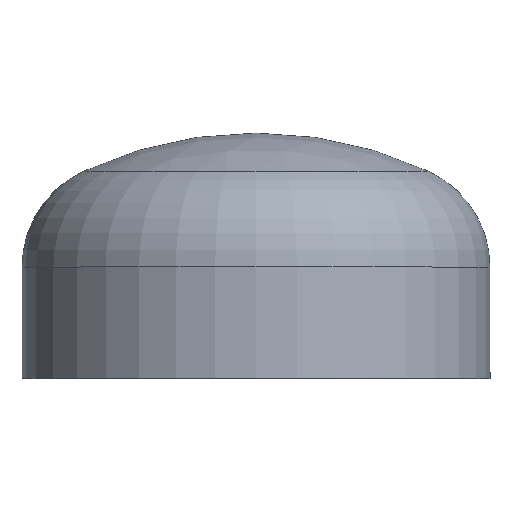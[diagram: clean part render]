
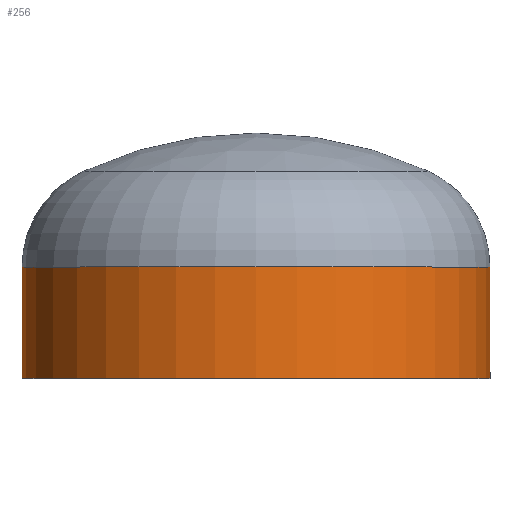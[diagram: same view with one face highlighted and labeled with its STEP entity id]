
A CAD part, top view. The second image highlights one B-rep face of the part: STEP entity #256.
In plain terms, the highlighted cylindrical face has radius 84.15 mm (diameter 168.3 mm), a partial arc.
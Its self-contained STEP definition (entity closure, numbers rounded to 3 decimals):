
#7 = DIRECTION ( 'NONE',  ( 0., -1., 0. ) ) ;
#8 = EDGE_LOOP ( 'NONE', ( #179, #226, #217, #149 ) ) ;
#17 = VERTEX_POINT ( 'NONE', #116 ) ;
#36 = VERTEX_POINT ( 'NONE', #69 ) ;
#55 = DIRECTION ( 'NONE',  ( 1., 0., 0. ) ) ;
#60 = CARTESIAN_POINT ( 'NONE',  ( 0., 0., 0. ) ) ;
#63 = EDGE_CURVE ( 'NONE', #312, #17, #165, .T. ) ;
#67 = CARTESIAN_POINT ( 'NONE',  ( 84.15, 40., 0. ) ) ;
#69 = CARTESIAN_POINT ( 'NONE',  ( -84.15, 40., 0. ) ) ;
#103 = EDGE_CURVE ( 'NONE', #401, #36, #242, .T. ) ;
#111 = CARTESIAN_POINT ( 'NONE',  ( 84.15, 0., 0. ) ) ;
#115 = VECTOR ( 'NONE', #274, 1000. ) ;
#116 = CARTESIAN_POINT ( 'NONE',  ( -84.15, 0., 0. ) ) ;
#120 = AXIS2_PLACEMENT_3D ( 'NONE', #60, #7, #55 ) ;
#126 = DIRECTION ( 'NONE',  ( 1., 0., 0. ) ) ;
#149 = ORIENTED_EDGE ( 'NONE', *, *, #301, .F. ) ;
#150 = AXIS2_PLACEMENT_3D ( 'NONE', #369, #218, #216 ) ;
#159 = DIRECTION ( 'NONE',  ( 0., -1., 0. ) ) ;
#164 = CARTESIAN_POINT ( 'NONE',  ( 0., 40., 0. ) ) ;
#165 = CIRCLE ( 'NONE', #150, 84.15 ) ;
#179 = ORIENTED_EDGE ( 'NONE', *, *, #103, .T. ) ;
#202 = LINE ( 'NONE', #233, #115 ) ;
#212 = FACE_OUTER_BOUND ( 'NONE', #8, .T. ) ;
#213 = AXIS2_PLACEMENT_3D ( 'NONE', #164, #159, #126 ) ;
#216 = DIRECTION ( 'NONE',  ( 1., 0., 0. ) ) ;
#217 = ORIENTED_EDGE ( 'NONE', *, *, #63, .F. ) ;
#218 = DIRECTION ( 'NONE',  ( 0., -1., 0. ) ) ;
#226 = ORIENTED_EDGE ( 'NONE', *, *, #283, .T. ) ;
#233 = CARTESIAN_POINT ( 'NONE',  ( -84.15, 0., 0. ) ) ;
#242 = CIRCLE ( 'NONE', #213, 84.15 ) ;
#256 = ADVANCED_FACE ( 'NONE', ( #212 ), #285, .T. ) ;
#266 = DIRECTION ( 'NONE',  ( 0., -1., 0. ) ) ;
#274 = DIRECTION ( 'NONE',  ( 0., -1., 0. ) ) ;
#283 = EDGE_CURVE ( 'NONE', #36, #17, #202, .T. ) ;
#285 = CYLINDRICAL_SURFACE ( 'NONE', #120, 84.15 ) ;
#301 = EDGE_CURVE ( 'NONE', #401, #312, #347, .T. ) ;
#312 = VERTEX_POINT ( 'NONE', #111 ) ;
#347 = LINE ( 'NONE', #399, #409 ) ;
#369 = CARTESIAN_POINT ( 'NONE',  ( 0., 0., 0. ) ) ;
#399 = CARTESIAN_POINT ( 'NONE',  ( 84.15, 0., 0. ) ) ;
#401 = VERTEX_POINT ( 'NONE', #67 ) ;
#409 = VECTOR ( 'NONE', #266, 1000. ) ;
